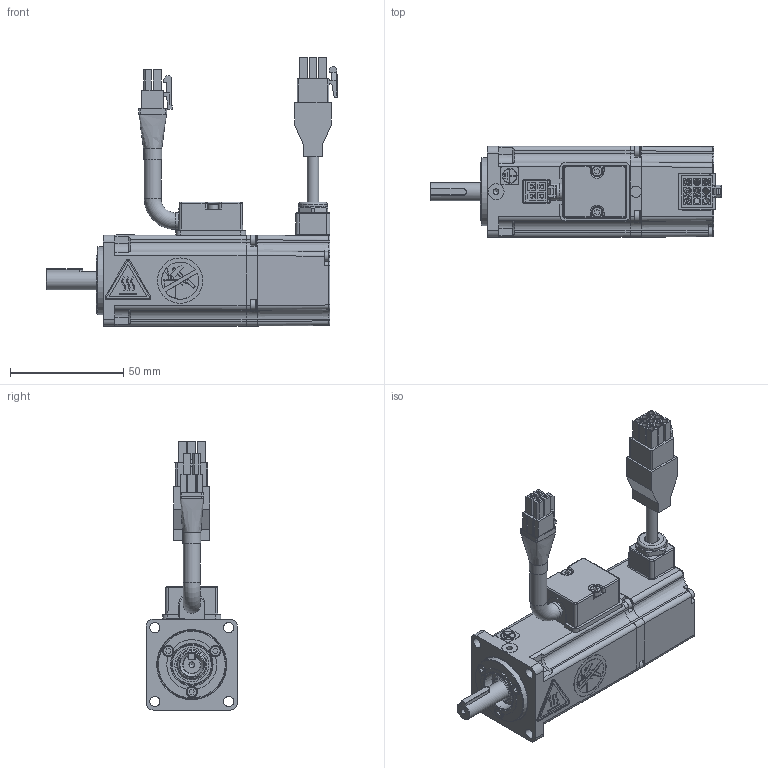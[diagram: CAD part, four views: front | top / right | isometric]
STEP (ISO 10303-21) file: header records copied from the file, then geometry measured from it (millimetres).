
FILE_DESCRIPTION(/* description */ ('AdapterTestApp'),/* implementation_level */ '2;1');
FILE_NAME(/* name */ 'TCE40 1B XX 3 A2 0 D0',/* time_stamp */ '2015-09-25T11:46:19+02:00',/* author */ ('AdapterTestApp'),/* organization */ ('Siemens PLM Software'),/* preprocessor_version */ 'ST-DEVELOPER v15.6',/* originating_system */ 'DEX',/* authorisation */ $);
FILE_SCHEMA (('AUTOMOTIVE_DESIGN {1 0 10303 214 3 1 1}'));
Products named in the file (32): TCE40 1B XX 3 A2 0 D0_vuoto; 003103001500; 005123000910; U5190002_vuoto; 003120002501; 001799000503; 005911000598; 003108015151_curva; 003303000375; 005453000452_D7,4; 007102000211; 001107000616; 003108020178_dritto; 005603001018; 003303000021; 005711000200; 005123000992; 003155000300; 005911000185; 003003050001; 003911000272; 005008000104; 005008000134; 005113000108; 005911003639; 005204000004; 005204000002; 003251022000; 005119000350; 005204000001
Assembly tree (45 placements, depth 4):
  TCE40 1B XX 3 A2 0 D0_vuoto
    003103001500
    005123000910
    U5190002_vuoto
      003120002501
      001799000503
      005911000598  x2
      003108015151_curva
        003108015151_curva
        003303000375
        005453000452_D7,4
    007102000211
      001107000616
      003108020178_dritto
        003108020178_dritto
        005603001018
        003303000021
        005711000200  x2
    005123000992
    003155000300
    005911000185  x7
    003003050001
    003911000272  x2
    005008000104  x2
    005008000134  x3
    005113000108
    005911003639  x3
    005204000004
    005204000002
    003251022000
    005119000350
    005204000001
Bounding box: 128.4 x 40.4 x 118.3 mm (x, y, z)
Volume: 76680.4 mm3; surface area: 76287 mm2
Topology: 47 solids, 47 shells, 1929 faces, 4864 edges, 3142 vertices
Faces by surface type: plane 1228, cylinder 397, cone 99, torus 87, bspline 61, extrusion 37, sphere 20
Full cylindrical faces by diameter (mm): 2.013 x22, 2.459 x11, 2.5 x16, 2.6 x9, 2.7 x14, 4.2 x2, 4.5 x4, 4.7 x13, 5 x7, 5.2 x1, 5.3 x2, 5.5 x1, 5.99 x1, 6 x3, 6.1 x1, 6.5 x1, 7 x2, 7.4 x2, 7.41 x1, 7.99 x1, 8 x3, 8.01 x1, 10 x2, 10.16 x2, 10.3 x2, 10.647 x1, 11 x1, 11.16 x2, 11.52 x2, 12 x1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
Entity records: 57766 total; most frequent: CARTESIAN_POINT 15652, DIRECTION 8233, ORIENTED_EDGE 8188, EDGE_CURVE 4094, VECTOR 2899, LINE 2862, VERTEX_POINT 2816, AXIS2_PLACEMENT_3D 2667
